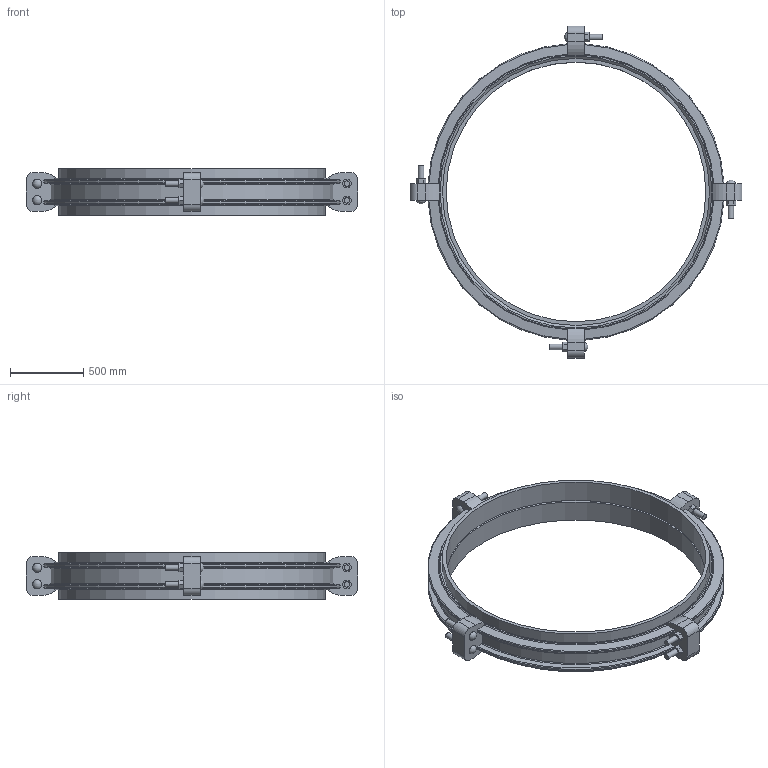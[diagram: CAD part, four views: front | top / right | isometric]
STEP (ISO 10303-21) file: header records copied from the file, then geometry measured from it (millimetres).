
FILE_DESCRIPTION(/* description */ ('VIC COUPLING FLEX STYLE W77 AGS VIC-RING ','CAx-IF Rec.Pracs.---Representation and Presentation of Product Manufacturing Information (PMI)---4.0---2014-10-13'),/* implementation_level */ '2;1');
FILE_NAME(/* name */ 'C:\Users\Vjadhav\AppData\Roaming\Autodesk\ApplicationPlugins\Victaulic.Temp\A52\Victaulic_Vic-Ring_Coupling Flexible_Style W77 (AGR)_72 (1800).stp',/* time_stamp */ '2021-12-20T11:07:33+06:00',/* author */ ('Vjadhav'),/* organization */ ('Victaulic'),/* preprocessor_version */ 'ST-DEVELOPER v17.2',/* originating_system */ 'Autodesk Inventor 2019',/* authorisation */ '');
FILE_SCHEMA (('AP242_MANAGED_MODEL_BASED_3D_ENGINEERING_MIM_LF { 1 0 10303 442 1 1 4 }'));
Length unit declared in the file: inch
Products named in the file (3): W77 VR-72.0; W77-VR-72.0; W77 VR-72.0_1
Assembly tree (3 placements, depth 2):
  W77 VR-72.0
    W77-VR-72.0
    W77 VR-72.0_1  x2
Bounding box: 2273.3 x 2273.3 x 316.74 mm (x, y, z)
Volume: 136560076.4 mm3; surface area: 8766383.7 mm2
Topology: 3 solids, 11 shells, 279 faces, 745 edges, 512 vertices
Faces by surface type: plane 138, cylinder 83, torus 32, cone 18, sphere 8
Full cylindrical faces by diameter (mm): 38.1 x16, 63.5 x8, 1778 x2, 1809.75 x1, 1828.8 x4
Entity records: 10061 total; most frequent: CARTESIAN_POINT 2672, ORIENTED_EDGE 1470, DIRECTION 1457, EDGE_CURVE 735, AXIS2_PLACEMENT_3D 537, VERTEX_POINT 504, LINE 383, VECTOR 383
